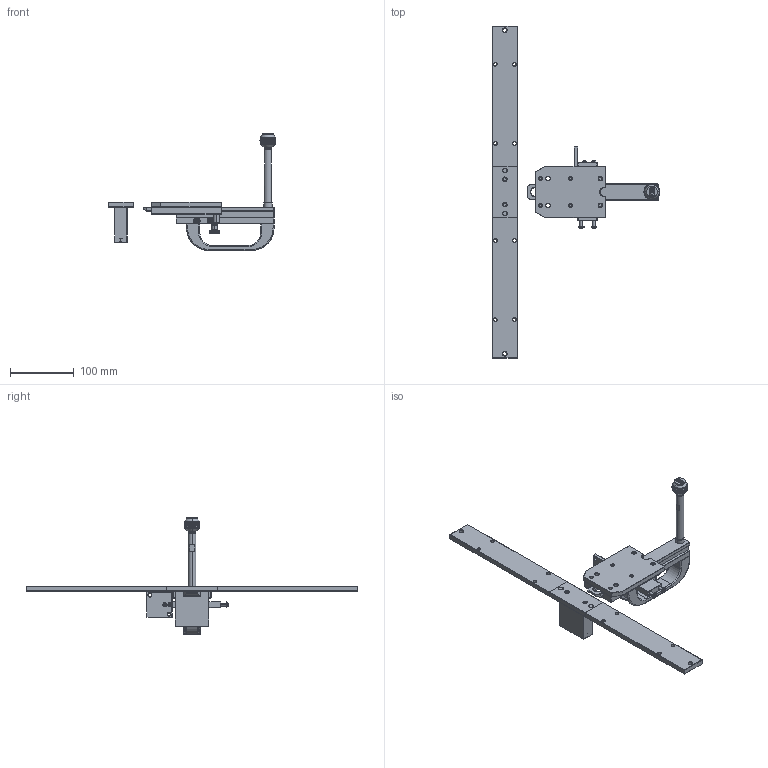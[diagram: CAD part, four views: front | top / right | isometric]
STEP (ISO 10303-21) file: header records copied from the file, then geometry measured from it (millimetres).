
FILE_DESCRIPTION((''),'2;1');
FILE_NAME('2007433_ASM','2010-06-21T',('rink'),(''),'PRO/ENGINEER BY PARAMETRIC TECHNOLOGY CORPORATION, 2009380','PRO/ENGINEER BY PARAMETRIC TECHNOLOGY CORPORATION, 2009380','');
FILE_SCHEMA(('AUTOMOTIVE_DESIGN_CC2 { 1 2 10303 214 -1 1 5 2 }'));
Length unit declared in the file: millimetre
Products named in the file (7): 2007411; 2007410; 2007415; 2007413; 2007417; 2007418; 2007433_ASM
Assembly tree (7 placements, depth 2):
  2007433_ASM
    2007411
    2007410  x2
    2007415
    2007413
    2007417
    2007418
Bounding box: 262.75 x 520 x 183.6 mm (x, y, z)
Volume: 593616.7 mm3; surface area: 175094.3 mm2
Topology: 9 solids, 11 shells, 1566 faces, 3908 edges, 2428 vertices
Faces by surface type: plane 887, cone 370, cylinder 246, torus 48, sphere 15
Entity records: 53730 total; most frequent: CARTESIAN_POINT 10875, DIRECTION 7240, ORIENTED_EDGE 6956, EDGE_CURVE 3478, PRESENTATION_STYLE_ASSIGNMENT 2943, STYLED_ITEM 2943, CURVE_STYLE 2939, AXIS2_PLACEMENT_3D 2653
